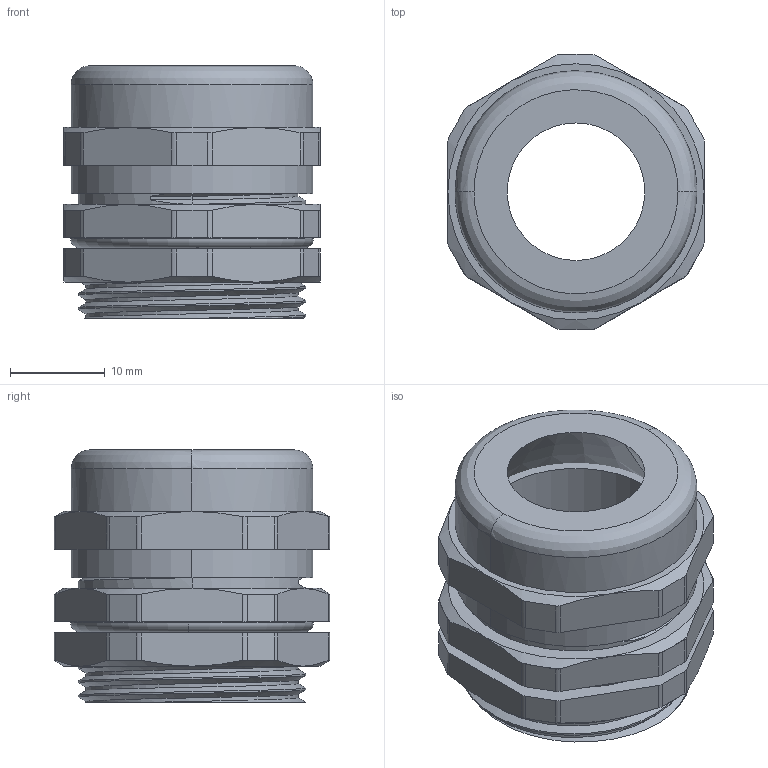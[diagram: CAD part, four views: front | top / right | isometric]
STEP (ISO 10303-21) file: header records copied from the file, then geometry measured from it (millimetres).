
FILE_DESCRIPTION (( 'STEP AP214' ), '1' );
FILE_NAME ('R5BCM24.STEP', '2022-10-11T06:31:33', ( '' ), ( '' ), 'SwSTEP 2.0', 'SolidWorks 2022', '' );
FILE_SCHEMA (( 'AUTOMOTIVE_DESIGN' ));
Length unit declared in the file: millimetre
Products named in the file (5): Крышка_R5BCM24; Уплотнительное кольцо_R5BCM24; R5BCM24; Корпус_R5BCM24; Фиксирующая гайка_R5BCM24
Assembly tree (4 placements, depth 2):
  R5BCM24
    Корпус_R5BCM24
    Уплотнительное кольцо_R5BCM24
    Фиксирующая гайка_R5BCM24
    Крышка_R5BCM24
Bounding box: 27 x 29 x 26.6 mm (x, y, z)
Volume: 6231 mm3; surface area: 8550.8 mm2
Topology: 4 solids, 4 shells, 206 faces, 536 edges, 341 vertices
Faces by surface type: cylinder 84, plane 80, cone 22, bspline 14, torus 6
Entity records: 14358 total; most frequent: CARTESIAN_POINT 9470, ORIENTED_EDGE 1072, DIRECTION 908, EDGE_CURVE 536, AXIS2_PLACEMENT_3D 345, VERTEX_POINT 341, VECTOR 218, LINE 218
